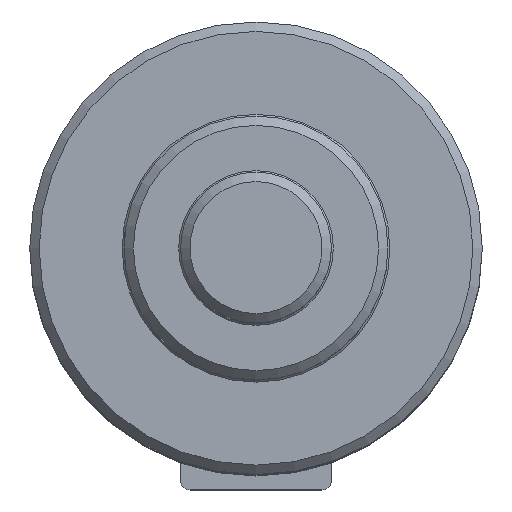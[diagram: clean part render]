
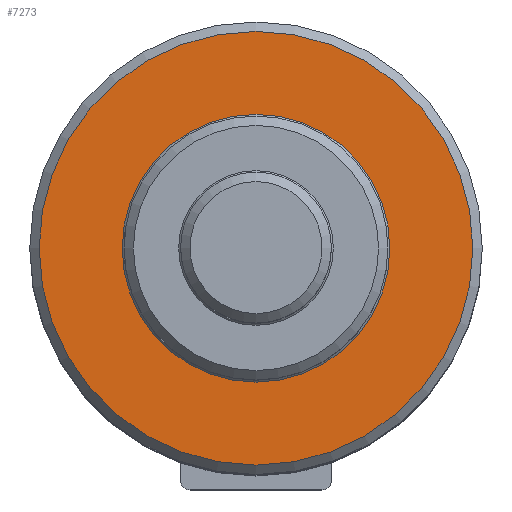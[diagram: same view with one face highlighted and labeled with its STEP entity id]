
A CAD part, top view. The second image highlights one B-rep face of the part: STEP entity #7273.
In plain terms, the highlighted planar face has unit normal (0, 0, 1).
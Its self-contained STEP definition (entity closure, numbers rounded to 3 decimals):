
#345 = EDGE_LOOP ( 'NONE', ( #3560 ) ) ;
#894 = AXIS2_PLACEMENT_3D ( 'NONE', #7285, #10070, #4673 ) ;
#1293 = AXIS2_PLACEMENT_3D ( 'NONE', #7030, #2514, #10585 ) ;
#1326 = VERTEX_POINT ( 'NONE', #8549 ) ;
#1674 = CIRCLE ( 'NONE', #1293, 7.1 ) ;
#2321 = VERTEX_POINT ( 'NONE', #6176 ) ;
#2514 = DIRECTION ( 'NONE',  ( 0., 0., -1. ) ) ;
#2760 = EDGE_CURVE ( 'NONE', #1326, #1326, #6208, .T. ) ;
#3560 = ORIENTED_EDGE ( 'NONE', *, *, #2760, .T. ) ;
#4673 = DIRECTION ( 'NONE',  ( 1., 0., 0. ) ) ;
#5518 = CARTESIAN_POINT ( 'NONE',  ( 0., 0., 5. ) ) ;
#5578 = DIRECTION ( 'NONE',  ( 0., 0., 1. ) ) ;
#6176 = CARTESIAN_POINT ( 'NONE',  ( 7.1, 0., 5. ) ) ;
#6208 = CIRCLE ( 'NONE', #9235, 11.5 ) ;
#6221 = EDGE_CURVE ( 'NONE', #2321, #2321, #1674, .T. ) ;
#6223 = FACE_OUTER_BOUND ( 'NONE', #345, .T. ) ;
#6340 = EDGE_LOOP ( 'NONE', ( #9024 ) ) ;
#6394 = PLANE ( 'NONE',  #894 ) ;
#7030 = CARTESIAN_POINT ( 'NONE',  ( 0., 0., 5. ) ) ;
#7273 = ADVANCED_FACE ( 'NONE', ( #11676, #6223 ), #6394, .T. ) ;
#7285 = CARTESIAN_POINT ( 'NONE',  ( -50., 0., 5. ) ) ;
#8549 = CARTESIAN_POINT ( 'NONE',  ( 11.5, 0., 5. ) ) ;
#9024 = ORIENTED_EDGE ( 'NONE', *, *, #6221, .T. ) ;
#9235 = AXIS2_PLACEMENT_3D ( 'NONE', #5518, #5578, #10916 ) ;
#10070 = DIRECTION ( 'NONE',  ( 0., 0., 1. ) ) ;
#10585 = DIRECTION ( 'NONE',  ( 1., 0., 0. ) ) ;
#10916 = DIRECTION ( 'NONE',  ( 1., 0., 0. ) ) ;
#11676 = FACE_BOUND ( 'NONE', #6340, .T. ) ;
